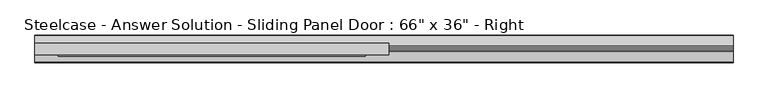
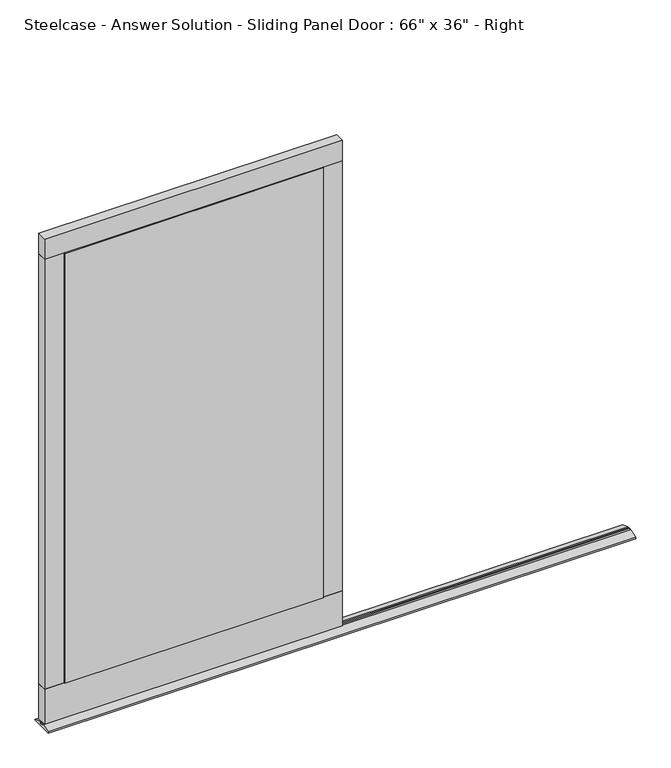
"""IFC4 building model written with IfcOpenShell, lengths in millimetres: furniture geometry."""

from ifc_helpers import new_model, si_unit, frame, origin, place, context, project, spatial, polyline, outline, extrude, source, transform, mapped, element, save


def furniture_2d54cec1(model_context):
    return source(origin(), model_context, "Body", "SweptSolid", [
        extrude(outline(polyline([(-889.0, -53.9597878), (-1854.2, -53.9597878), (-1854.2, -22.2097635), (-889.0, -22.2097635), (-889.0, -53.9597878)])), frame((0.0, 0.0, 1610.3589729), z_axis=(0.0, 0.0, 1.0), x_axis=(1.0, 0.0, 0.0)), (0.0, 0.0, 1.0), 69.8499516),
        extrude(outline(polyline([(-1790.7000969, -53.9597878), (-1854.2, -53.9597878), (-1854.2, -22.2097635), (-1790.7000969, -22.2097635), (-1790.7000969, -53.9597878)])), frame((0.0, 0.0, 137.1589275), z_axis=(0.0, 0.0, 1.0), x_axis=(1.0, 0.0, 0.0)), (0.0, 0.0, 1.0), 1473.2000454),
        extrude(outline(polyline([(-889.0, -53.9597878), (-952.4999031, -53.9597878), (-952.4999031, -22.2097635), (-889.0, -22.2097635), (-889.0, -53.9597878)])), frame((0.0, 0.0, 137.1589275), z_axis=(0.0, 0.0, 1.0), x_axis=(1.0, 0.0, 0.0)), (0.0, 0.0, 1.0), 1473.2000454),
        extrude(outline(polyline([(-889.0, -53.9597878), (-1854.2, -53.9597878), (-1854.2, -22.2097635), (-889.0, -22.2097635), (-889.0, -53.9597878)])), frame((0.0, 0.0, 16.5089245), z_axis=(0.0, 0.0, 1.0), x_axis=(1.0, 0.0, 0.0)), (0.0, 0.0, 1.0), 120.650003),
        extrude(outline(polyline([(-952.4999031, -53.9597878), (-952.4999031, -57.7514894), (-1790.7000969, -57.7514894), (-1790.7000969, -53.9597878), (-952.4999031, -53.9597878)])), frame((0.0, 0.0, 137.1589275), z_axis=(0.0, 0.0, 1.0), x_axis=(1.0, 0.0, 0.0)), (0.0, 0.0, 1.0), 1473.2000454),
        extrude(outline(polyline([(-29.8388763, 12.2491055), (-1.9333122, 3.0138476), (0.0, 0.0), (-76.1694786, 0.0), (-74.2361664, 3.0138476), (-46.3306023, 12.2491055), (-46.3306023, 6.2879429), (-39.9806265, 6.2879429), (-39.9806265, 12.6379637), (-36.1889248, 12.6379637), (-36.1889248, 6.2879429), (-29.8388763, 6.2879429), (-29.8388763, 12.2491055)])), frame((-1854.2, 0.0, 0.0), z_axis=(1.0, 0.0, 0.0), x_axis=(0.0, 1.0, 0.0)), (0.0, 0.0, 1.0), 1905.0),
    ])


if __name__ == "__main__":
    model = new_model("IFC4")
    model_context = context("Model", 3, world=origin())
    ifc_project = project(units=[si_unit("LENGTHUNIT", "METRE", prefix="MILLI")], contexts=[model_context])
    site = spatial("IfcSite", under=ifc_project)
    building = spatial("IfcBuilding", under=site)
    placement = place(None, origin())
    furniture_shape = furniture_2d54cec1(model_context)
    element("IfcFurniture", 1, ObjectType="Steelcase - Answer Solution - Sliding Panel Door : 66\" x 36\" - Right", at=placement, inside=building, context=model_context, shape_type="MappedRepresentation", body=[
        mapped(furniture_shape, transform((0.0, 0.0, 0.0), x_axis=(1.0, 0.0, 0.0), y_axis=(0.0, 1.0, 0.0), z_axis=(0.0, 0.0, 1.0))),
    ])
    save(model, "model.ifc")
